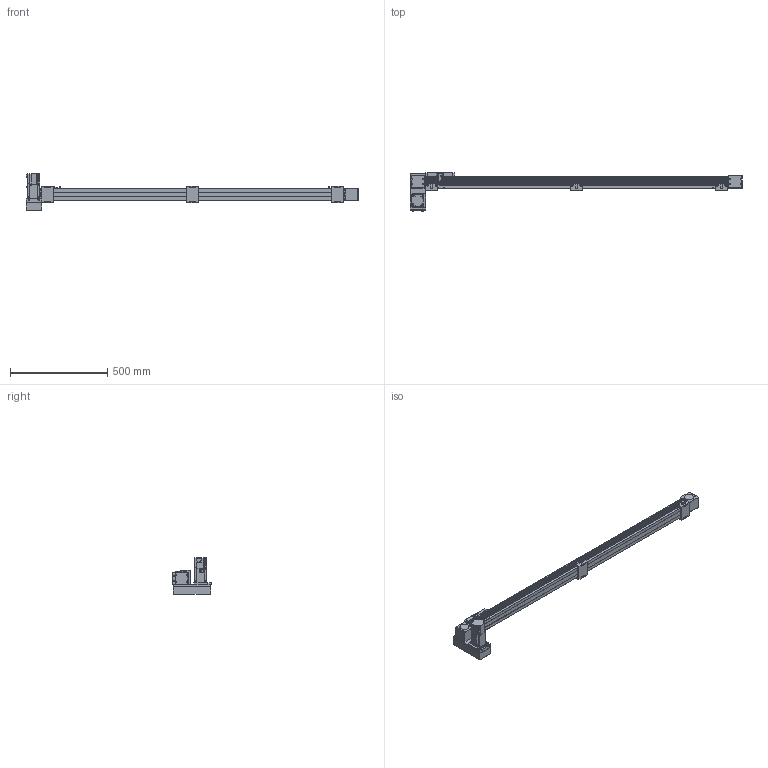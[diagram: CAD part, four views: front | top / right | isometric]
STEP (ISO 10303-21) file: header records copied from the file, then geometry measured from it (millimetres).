
FILE_DESCRIPTION(/* description */ ('STEP AP214'),/* implementation_level */ '2;1');
FILE_NAME(/* name */ 'SK60-P13-S1400-LD-T40-C1-N(0)',/* time_stamp */ '2023-04-06T04:39:01+02:00',/* author */ ('License CC BY-ND 4.0'),/* organization */ ('CADENAS'),/* preprocessor_version */ 'ST-DEVELOPER v19.3',/* originating_system */ 'PARTsolutions',/* authorisation */ ' ');
FILE_SCHEMA (('AUTOMOTIVE_DESIGN {1 0 10303 214 3 1 1}'));
Length unit declared in the file: millimetre
Products named in the file (10): SK60-P13-S1400-LD-T40-C1-N(0); PSC140-sensor; SK60-S450_seat; SK60-S450-BL-C1_slider; SK60_body3; SK60_body6; SK60-BL_body2; T40-p1; SK60-LD_fb; SK60-S1400-LD-C1_body
Assembly tree (17 placements, depth 2):
  SK60-P13-S1400-LD-T40-C1-N(0)
    PSC140-sensor  x3
    SK60-S450_seat  x3
    SK60-S450-BL-C1_slider
    SK60_body3  x3
    SK60_body6  x2
    SK60-BL_body2  x2
    T40-p1
    SK60-LD_fb
    SK60-S1400-LD-C1_body
Bounding box: 1705.5 x 199 x 189.7 mm (x, y, z)
Volume: 6967335.1 mm3; surface area: 849359.5 mm2
Topology: 17 solids, 17 shells, 854 faces, 2146 edges, 1413 vertices
Faces by surface type: plane 548, cylinder 278, cone 26, torus 2
Full cylindrical faces by diameter (mm): 2.8 x3, 3.3 x4, 4 x2, 4.5 x30, 4.6 x3, 4.917 x20, 5 x6, 5.478 x4, 5.5 x23, 6.5 x6, 7 x2, 8 x4, 8.5 x4, 9.988 x4, 10 x12, 14 x1, 47 x3, 50 x2
Entity records: 18663 total; most frequent: DIRECTION 3186, CARTESIAN_POINT 3151, ORIENTED_EDGE 2940, EDGE_CURVE 1470, AXIS2_PLACEMENT_3D 1069, LINE 1048, VECTOR 1048, VERTEX_POINT 1034
